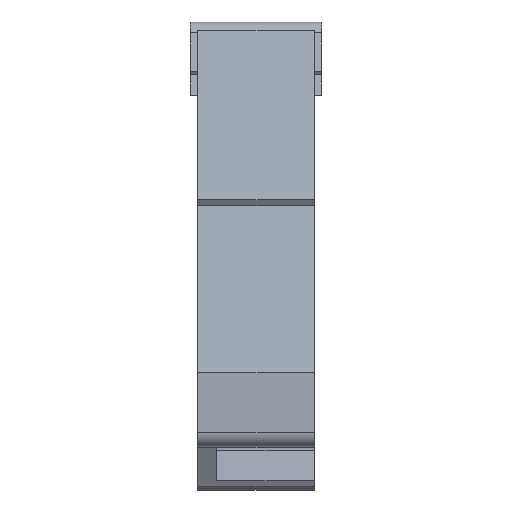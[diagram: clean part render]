
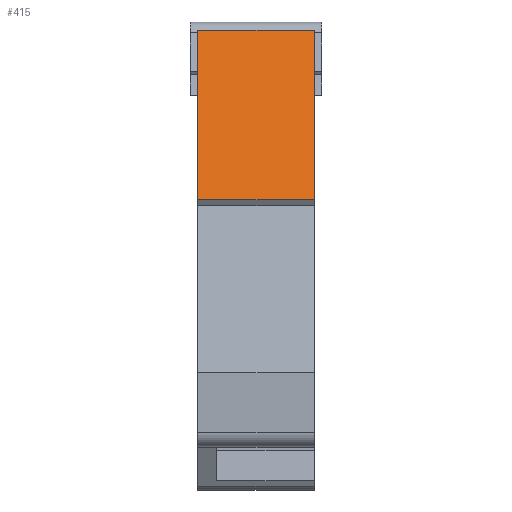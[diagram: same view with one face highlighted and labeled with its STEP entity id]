
A CAD part, left-side view. The second image highlights one B-rep face of the part: STEP entity #415.
In plain terms, the highlighted planar face has unit normal (-0.966, 0, 0.259) as drawn and (0, 0, 1) by its records, which use the part's own axes.
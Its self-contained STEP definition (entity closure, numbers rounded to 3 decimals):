
#415 = ADVANCED_FACE( '', ( #970 ), #971, .F. );
#970 = FACE_OUTER_BOUND( '', #1717, .T. );
#971 = PLANE( '', #1718 );
#1717 = EDGE_LOOP( '', ( #2621, #2622, #2623, #2624 ) );
#1718 = AXIS2_PLACEMENT_3D( '', #2625, #2626, #2627 );
#2621 = ORIENTED_EDGE( '', *, *, #4764, .F. );
#2622 = ORIENTED_EDGE( '', *, *, #4765, .T. );
#2623 = ORIENTED_EDGE( '', *, *, #4766, .T. );
#2624 = ORIENTED_EDGE( '', *, *, #4767, .F. );
#2625 = CARTESIAN_POINT( '', ( 4., 6., 1.5 ) );
#2626 = DIRECTION( '', ( 0., 0., -1. ) );
#2627 = DIRECTION( '', ( 0., 1., 0. ) );
#4764 = EDGE_CURVE( '', #5771, #5772, #5773, .T. );
#4765 = EDGE_CURVE( '', #5771, #5774, #5775, .T. );
#4766 = EDGE_CURVE( '', #5774, #5776, #5777, .T. );
#4767 = EDGE_CURVE( '', #5772, #5776, #5778, .T. );
#5771 = VERTEX_POINT( '', #7204 );
#5772 = VERTEX_POINT( '', #7205 );
#5773 = LINE( '', #7206, #7207 );
#5774 = VERTEX_POINT( '', #7208 );
#5775 = LINE( '', #7209, #7210 );
#5776 = VERTEX_POINT( '', #7211 );
#5777 = LINE( '', #7212, #7213 );
#5778 = LINE( '', #7214, #7215 );
#7204 = CARTESIAN_POINT( '', ( 4., 6., 1.5 ) );
#7205 = CARTESIAN_POINT( '', ( 4., -6., 1.5 ) );
#7206 = CARTESIAN_POINT( '', ( 4., 6., 1.5 ) );
#7207 = VECTOR( '', #8817, 1000. );
#7208 = CARTESIAN_POINT( '', ( -4., 6., 1.5 ) );
#7209 = CARTESIAN_POINT( '', ( 4., 6., 1.5 ) );
#7210 = VECTOR( '', #8818, 1000. );
#7211 = CARTESIAN_POINT( '', ( -4., -6., 1.5 ) );
#7212 = CARTESIAN_POINT( '', ( -4., 6., 1.5 ) );
#7213 = VECTOR( '', #8819, 1000. );
#7214 = CARTESIAN_POINT( '', ( 4., -6., 1.5 ) );
#7215 = VECTOR( '', #8820, 1000. );
#8817 = DIRECTION( '', ( 0., -1., 0. ) );
#8818 = DIRECTION( '', ( -1., 0., 0. ) );
#8819 = DIRECTION( '', ( 0., -1., 0. ) );
#8820 = DIRECTION( '', ( -1., 0., 0. ) );
